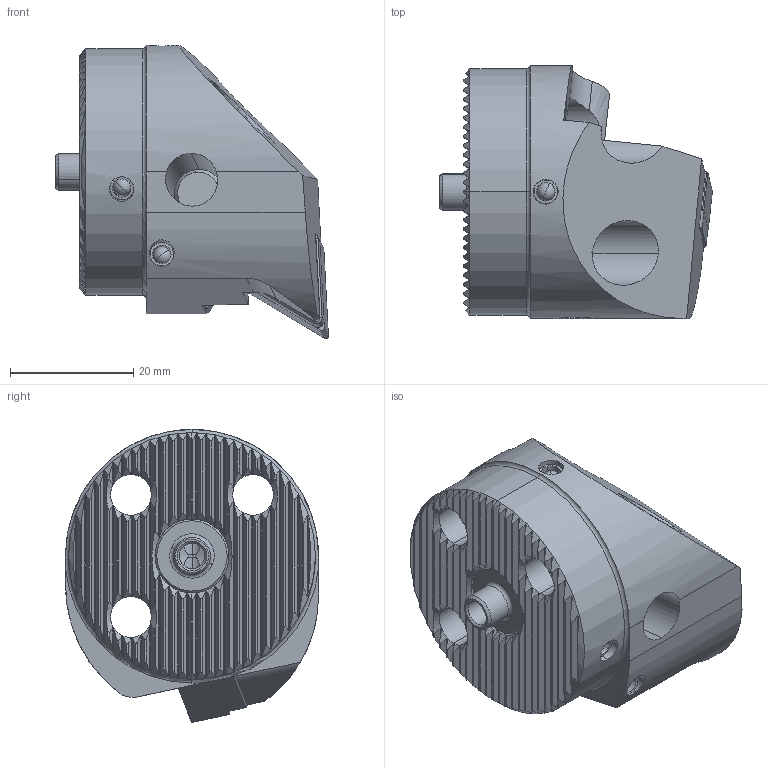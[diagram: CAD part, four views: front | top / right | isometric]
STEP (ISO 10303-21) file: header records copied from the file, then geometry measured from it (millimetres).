
FILE_DESCRIPTION (( 'STEP AP214' ), '1' );
FILE_NAME ('WK1.PDF.RUC.040.STEP', '2020-09-16T12:27:52', ( '' ), ( '' ), 'SwSTEP 2.0', 'SolidWorks 2017', '' );
FILE_SCHEMA (( 'AUTOMOTIVE_DESIGN' ));
Length unit declared in the file: millimetre
Products named in the file (10): WDF-ER2.101.003_A; WCD-ER1.101.000; WK1-PDF.RUC.040_A; KVT_MB_600_040; WDF-ER3.101.000_A; WCD-ER4.101.017_A; DNMG150604; WK2-ER1.001.012_A_Fertigbearbeitung; WK1.PDF.RUC.040; WKX-ER1.004.005_A_PreviewCfg
Assembly tree (12 placements, depth 2):
  WK1.PDF.RUC.040
    WK1-PDF.RUC.040_A
    KVT_MB_600_040  x3
    WDF-ER3.101.000_A
    DNMG150604
    WDF-ER2.101.003_A
    WCD-ER4.101.017_A
    WCD-ER1.101.000
    WKX-ER1.004.005_A_PreviewCfg  x2
    WK2-ER1.001.012_A_Fertigbearbeitung
Bounding box: 44.2 x 41 x 47.5 mm (x, y, z)
Volume: 31001.4 mm3; surface area: 15157.1 mm2
Topology: 15 solids, 15 shells, 667 faces, 1763 edges, 1105 vertices
Faces by surface type: plane 263, cylinder 216, cone 150, torus 17, bspline 15, sphere 6
Entity records: 20835 total; most frequent: CARTESIAN_POINT 6506, ORIENTED_EDGE 3144, DIRECTION 2572, EDGE_CURVE 1572, VERTEX_POINT 1006, AXIS2_PLACEMENT_3D 970, LINE 632, VECTOR 632
